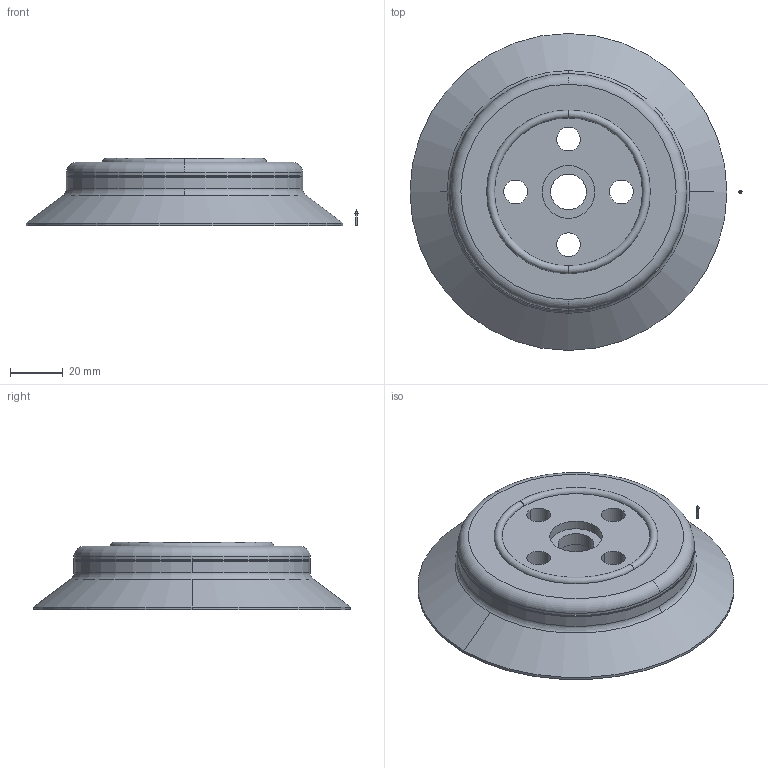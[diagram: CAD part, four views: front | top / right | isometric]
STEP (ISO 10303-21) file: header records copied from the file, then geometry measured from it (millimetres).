
FILE_DESCRIPTION(('STEP AP214'),'1');
FILE_NAME('10_01_01_00331.stp','2020-10-24T00:21:19',('TraceParts'),('TraceParts S.A.'),'Spatial InterOp 3D',' ',' ');
FILE_SCHEMA(('AUTOMOTIVE_DESIGN { 1 0 10303 214 1 1 1 1 }'));
Length unit declared in the file: millimetre
Products named in the file (1): 10_01_01_00331_1
Bounding box: 125.7 x 120 x 25.5 mm (x, y, z)
Volume: 117517.9 mm3; surface area: 31524.7 mm2
Topology: 2 solids, 2 shells, 76 faces, 180 edges, 115 vertices
Faces by surface type: cylinder 34, torus 20, plane 12, cone 10
Entity records: 2896 total; most frequent: DIRECTION 468, CARTESIAN_POINT 371, ORIENTED_EDGE 356, AXIS2_PLACEMENT_3D 212, EDGE_CURVE 178, CIRCLE 134, VERTEX_POINT 115, EDGE_LOOP 95
